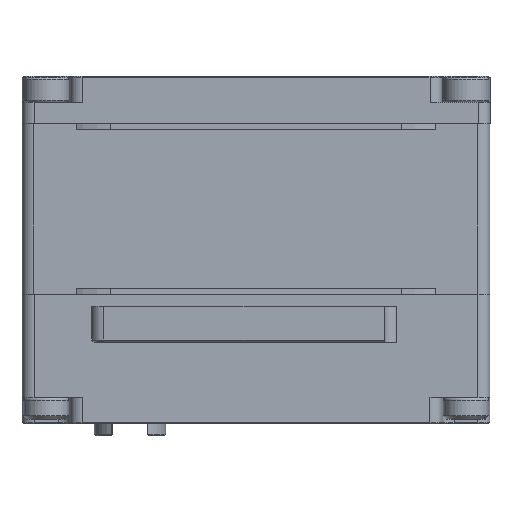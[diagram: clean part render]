
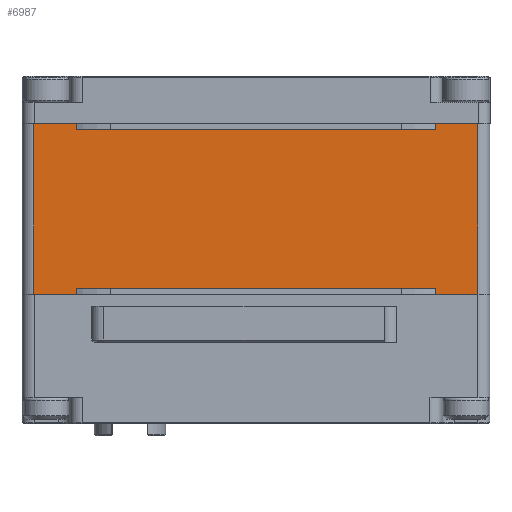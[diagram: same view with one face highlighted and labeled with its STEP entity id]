
A CAD part, front view. The second image highlights one B-rep face of the part: STEP entity #6987.
In plain terms, the highlighted planar face has unit normal (0, -1, 0).
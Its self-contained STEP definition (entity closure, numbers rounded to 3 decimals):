
#13 = VECTOR ( 'NONE', #11665, 1000. ) ;
#986 = CARTESIAN_POINT ( 'NONE',  ( -74.985, -29.119, 9.75 ) ) ;
#1036 = CARTESIAN_POINT ( 'NONE',  ( -40.485, -29.119, 9.25 ) ) ;
#1260 = AXIS2_PLACEMENT_3D ( 'NONE', #13328, #3121, #6025 ) ;
#1381 = VERTEX_POINT ( 'NONE', #15967 ) ;
#1503 = ORIENTED_EDGE ( 'NONE', *, *, #10766, .F. ) ;
#1594 = CARTESIAN_POINT ( 'NONE',  ( -55.485, -29.119, 9.25 ) ) ;
#1598 = ORIENTED_EDGE ( 'NONE', *, *, #5215, .F. ) ;
#1751 = CARTESIAN_POINT ( 'NONE',  ( -70.485, -29.119, -4.5 ) ) ;
#2142 = VERTEX_POINT ( 'NONE', #4272 ) ;
#2608 = CARTESIAN_POINT ( 'NONE',  ( -40.485, -29.119, 9.75 ) ) ;
#2744 = CARTESIAN_POINT ( 'NONE',  ( -74.985, -29.119, 9.75 ) ) ;
#3121 = DIRECTION ( 'NONE',  ( 0., 1., 0. ) ) ;
#3326 = DIRECTION ( 'NONE',  ( -1., 0., 0. ) ) ;
#3565 = LINE ( 'NONE', #17840, #15279 ) ;
#4056 = LINE ( 'NONE', #11985, #6779 ) ;
#4158 = CARTESIAN_POINT ( 'NONE',  ( -40.485, -29.119, -4. ) ) ;
#4188 = ORIENTED_EDGE ( 'NONE', *, *, #17415, .T. ) ;
#4272 = CARTESIAN_POINT ( 'NONE',  ( -73.985, -29.119, -4.5 ) ) ;
#4281 = VERTEX_POINT ( 'NONE', #11458 ) ;
#4724 = PLANE ( 'NONE',  #1260 ) ;
#4842 = CARTESIAN_POINT ( 'NONE',  ( -40.485, -29.119, -4. ) ) ;
#4959 = DIRECTION ( 'NONE',  ( -1., 0., 0. ) ) ;
#5215 = EDGE_CURVE ( 'NONE', #5777, #11727, #16406, .T. ) ;
#5265 = FACE_OUTER_BOUND ( 'NONE', #17523, .T. ) ;
#5324 = ORIENTED_EDGE ( 'NONE', *, *, #10381, .F. ) ;
#5777 = VERTEX_POINT ( 'NONE', #12549 ) ;
#5851 = DIRECTION ( 'NONE',  ( 0., 0., 1. ) ) ;
#5891 = CARTESIAN_POINT ( 'NONE',  ( -73.985, -29.119, 9.75 ) ) ;
#5905 = VECTOR ( 'NONE', #4959, 1000. ) ;
#6025 = DIRECTION ( 'NONE',  ( 0., 0., 1. ) ) ;
#6204 = LINE ( 'NONE', #12995, #14512 ) ;
#6321 = DIRECTION ( 'NONE',  ( 0., 0., 1. ) ) ;
#6779 = VECTOR ( 'NONE', #6321, 1000. ) ;
#6804 = CARTESIAN_POINT ( 'NONE',  ( -55.485, -29.119, -4.5 ) ) ;
#6987 = ADVANCED_FACE ( 'NONE', ( #5265 ), #4724, .F. ) ;
#7453 = DIRECTION ( 'NONE',  ( 0., 0., -1. ) ) ;
#8292 = CARTESIAN_POINT ( 'NONE',  ( -36.985, -29.119, 9.75 ) ) ;
#8457 = VERTEX_POINT ( 'NONE', #8292 ) ;
#8627 = VECTOR ( 'NONE', #11563, 1000. ) ;
#9131 = ORIENTED_EDGE ( 'NONE', *, *, #9584, .T. ) ;
#9345 = VECTOR ( 'NONE', #3326, 1000. ) ;
#9431 = VECTOR ( 'NONE', #13580, 1000. ) ;
#9584 = EDGE_CURVE ( 'NONE', #4281, #8457, #4056, .T. ) ;
#9973 = ORIENTED_EDGE ( 'NONE', *, *, #14673, .T. ) ;
#10160 = VECTOR ( 'NONE', #15768, 1000. ) ;
#10199 = LINE ( 'NONE', #18011, #5905 ) ;
#10242 = LINE ( 'NONE', #17874, #9345 ) ;
#10371 = LINE ( 'NONE', #1594, #13 ) ;
#10381 = EDGE_CURVE ( 'NONE', #16940, #5777, #10242, .T. ) ;
#10717 = VECTOR ( 'NONE', #13378, 1000. ) ;
#10766 = EDGE_CURVE ( 'NONE', #11727, #2142, #11134, .T. ) ;
#10852 = DIRECTION ( 'NONE',  ( -1., 0., 0. ) ) ;
#11064 = EDGE_CURVE ( 'NONE', #4281, #15684, #10199, .T. ) ;
#11134 = LINE ( 'NONE', #6804, #14034 ) ;
#11142 = CARTESIAN_POINT ( 'NONE',  ( -70.485, -29.119, 9.25 ) ) ;
#11230 = VERTEX_POINT ( 'NONE', #11142 ) ;
#11458 = CARTESIAN_POINT ( 'NONE',  ( -36.985, -29.119, -4.5 ) ) ;
#11509 = LINE ( 'NONE', #2744, #10160 ) ;
#11563 = DIRECTION ( 'NONE',  ( 0., 0., -1. ) ) ;
#11665 = DIRECTION ( 'NONE',  ( 1., 0., 0. ) ) ;
#11727 = VERTEX_POINT ( 'NONE', #1751 ) ;
#11985 = CARTESIAN_POINT ( 'NONE',  ( -36.985, -29.119, 9.75 ) ) ;
#12454 = VERTEX_POINT ( 'NONE', #1036 ) ;
#12549 = CARTESIAN_POINT ( 'NONE',  ( -70.485, -29.119, -4. ) ) ;
#12994 = EDGE_CURVE ( 'NONE', #1381, #18669, #11509, .T. ) ;
#12995 = CARTESIAN_POINT ( 'NONE',  ( -70.485, -29.119, 9.25 ) ) ;
#13019 = ORIENTED_EDGE ( 'NONE', *, *, #11064, .F. ) ;
#13197 = LINE ( 'NONE', #986, #9431 ) ;
#13328 = CARTESIAN_POINT ( 'NONE',  ( -74.985, -29.119, 9.75 ) ) ;
#13378 = DIRECTION ( 'NONE',  ( 0., 0., -1. ) ) ;
#13412 = ORIENTED_EDGE ( 'NONE', *, *, #16014, .F. ) ;
#13580 = DIRECTION ( 'NONE',  ( 1., 0., 0. ) ) ;
#13753 = EDGE_CURVE ( 'NONE', #12454, #18639, #3565, .T. ) ;
#13911 = EDGE_CURVE ( 'NONE', #18639, #8457, #13197, .T. ) ;
#14034 = VECTOR ( 'NONE', #10852, 1000. ) ;
#14512 = VECTOR ( 'NONE', #5851, 1000. ) ;
#14591 = VECTOR ( 'NONE', #7453, 1000. ) ;
#14593 = CARTESIAN_POINT ( 'NONE',  ( -70.485, -29.119, -4. ) ) ;
#14673 = EDGE_CURVE ( 'NONE', #11230, #18669, #6204, .T. ) ;
#14738 = DIRECTION ( 'NONE',  ( 0., 0., 1. ) ) ;
#15244 = EDGE_CURVE ( 'NONE', #1381, #2142, #18550, .T. ) ;
#15279 = VECTOR ( 'NONE', #14738, 1000. ) ;
#15684 = VERTEX_POINT ( 'NONE', #16365 ) ;
#15768 = DIRECTION ( 'NONE',  ( 1., 0., 0. ) ) ;
#15967 = CARTESIAN_POINT ( 'NONE',  ( -73.985, -29.119, 9.75 ) ) ;
#15973 = ORIENTED_EDGE ( 'NONE', *, *, #13753, .F. ) ;
#16014 = EDGE_CURVE ( 'NONE', #11230, #12454, #10371, .T. ) ;
#16365 = CARTESIAN_POINT ( 'NONE',  ( -40.485, -29.119, -4.5 ) ) ;
#16406 = LINE ( 'NONE', #14593, #14591 ) ;
#16940 = VERTEX_POINT ( 'NONE', #4158 ) ;
#17130 = CARTESIAN_POINT ( 'NONE',  ( -70.485, -29.119, 9.75 ) ) ;
#17242 = LINE ( 'NONE', #4842, #10717 ) ;
#17415 = EDGE_CURVE ( 'NONE', #16940, #15684, #17242, .T. ) ;
#17417 = ORIENTED_EDGE ( 'NONE', *, *, #12994, .F. ) ;
#17523 = EDGE_LOOP ( 'NONE', ( #18412, #15973, #13412, #9973, #17417, #17577, #1503, #1598, #5324, #4188, #13019, #9131 ) ) ;
#17577 = ORIENTED_EDGE ( 'NONE', *, *, #15244, .T. ) ;
#17840 = CARTESIAN_POINT ( 'NONE',  ( -40.485, -29.119, 9.25 ) ) ;
#17874 = CARTESIAN_POINT ( 'NONE',  ( -55.485, -29.119, -4. ) ) ;
#18011 = CARTESIAN_POINT ( 'NONE',  ( -55.485, -29.119, -4.5 ) ) ;
#18412 = ORIENTED_EDGE ( 'NONE', *, *, #13911, .F. ) ;
#18550 = LINE ( 'NONE', #5891, #8627 ) ;
#18639 = VERTEX_POINT ( 'NONE', #2608 ) ;
#18669 = VERTEX_POINT ( 'NONE', #17130 ) ;
